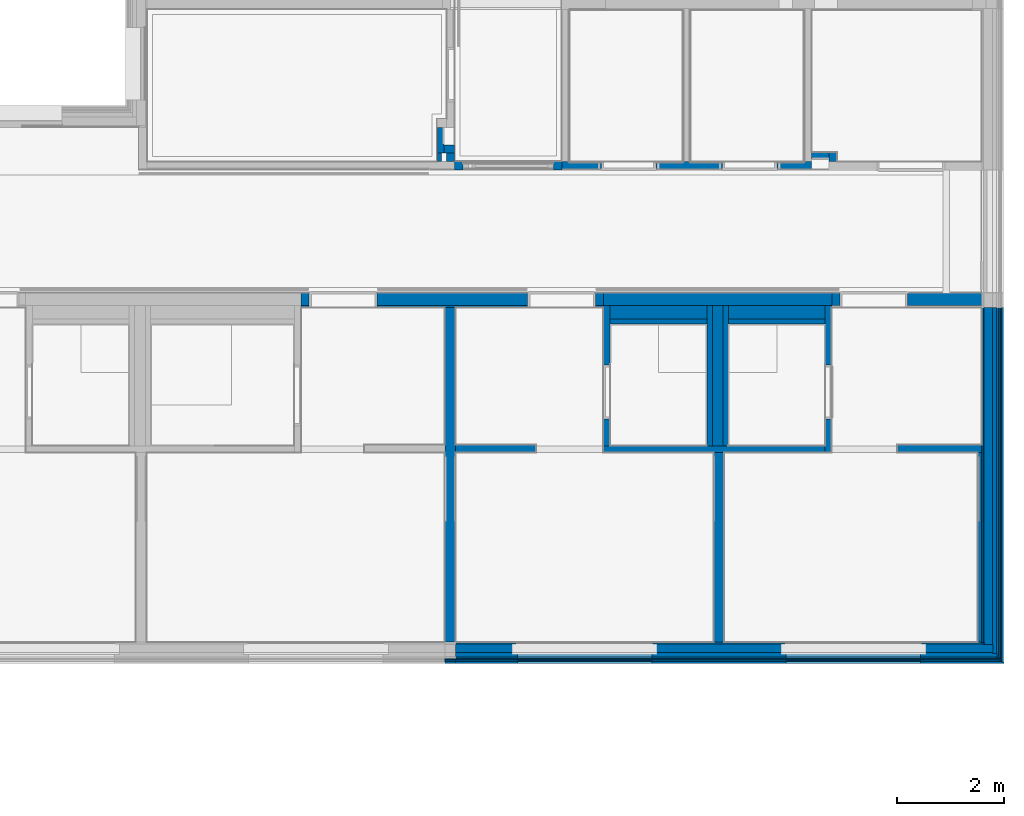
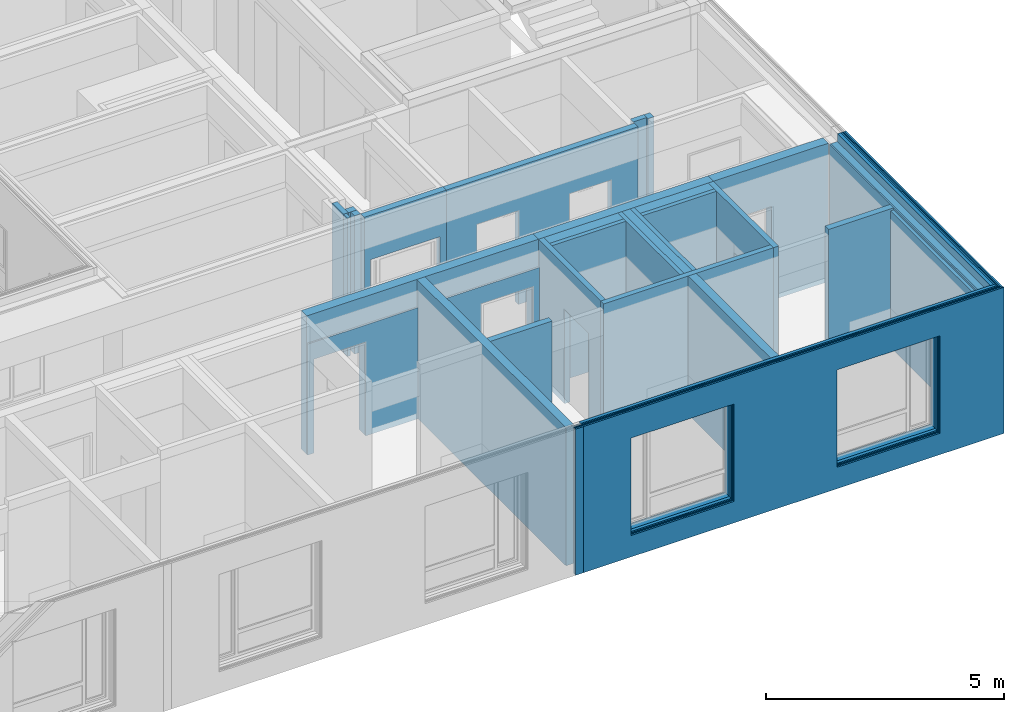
# One storey, part 50 of 222: 44 walls, 24 openings.
"""IFC4 building model written with IfcOpenShell, lengths in metres."""

from ifc_helpers import new_model, entity, si_unit, converted_unit, derived_unit, frame, frame_2d, origin, origin_with_axes, place, context, subcontext, project, spatial, polyline, rectangle, outline, extrude, clip, bounded_halfspace, material, element, save


model = new_model("IFC4")

# Units and contexts
model_context = context("Model", 3, precision=1e-05, world=origin())
body_context = subcontext(model_context, "Body", "Model", "MODEL_VIEW")
ifc_project = project(units=[si_unit("LENGTHUNIT", "METRE"), si_unit("AREAUNIT", "SQUARE_METRE"), si_unit("VOLUMEUNIT", "CUBIC_METRE"), si_unit("MASSUNIT", "GRAM", prefix="KILO"), converted_unit("PLANEANGLEUNIT", "DEGREE", entity("IfcPlaneAngleMeasure", 0.0174532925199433), si_unit("PLANEANGLEUNIT", "RADIAN"), dimensions=[0, 0, 0, 0, 0, 0, 0]), derived_unit("THERMALTRANSMITTANCEUNIT", [(si_unit("POWERUNIT", "WATT"), 1), (si_unit("THERMODYNAMICTEMPERATUREUNIT", "KELVIN"), -1), (si_unit("LENGTHUNIT", "METRE"), -2)]), derived_unit("VOLUMETRICFLOWRATEUNIT", [(si_unit("LENGTHUNIT", "METRE"), 3), (converted_unit("TIMEUNIT", "hour", entity("IfcTimeMeasure", 3600.0), si_unit("TIMEUNIT", "SECOND"), dimensions=[0, 0, 1, 0, 0, 0, 0]), -1), (si_unit("LENGTHUNIT", "METRE"), -1)])], contexts=[model_context])

# Site, building, storey
site_placement = place(None, origin())
site = spatial("IfcSite", under=ifc_project, at=site_placement, Name="Psychiatrie Neubau Wunstorf", CompositionType="ELEMENT")
building_placement = place(site_placement, origin())
building = spatial("IfcBuilding", under=site, at=building_placement, Name="Neubau H2 Stationsgebäude", CompositionType="ELEMENT")
storey_placement = place(building_placement, frame((0.0, 0.0, 3.6)))
storey = spatial("IfcBuildingStorey", under=building, at=storey_placement, Name="H2 Ebene +1", CompositionType="ELEMENT", Elevation=3.6)

# Wall, openings
ifc_material_1 = material(Name="WA-LB")
wall_1_placement = place(storey_placement, frame((105.889, -1.16399999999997, 0.0), z_axis=(0.0, 0.0, 1.0), x_axis=(-1.0, 0.0, 0.0)))
wall_1 = element("IfcWall", 1, at=wall_1_placement, inside=storey, material=ifc_material_1, context=body_context, shape_type="SweptSolid", body=[
    extrude(outline(polyline([(-9.78900000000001, -0.036), (0.0, -0.036), (0.0, 0.0), (-9.83600000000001, 0.0), (-9.83600000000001, -0.0250000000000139), (-9.78900000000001, -0.0250000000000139), (-9.78900000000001, -0.036)])), frame((9.78900000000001, 0.036, 0.0), z_axis=(0.0, 0.0, 1.0), x_axis=(1.0, 0.0, 0.0)), (0.0, 0.0, 1.0), 3.55),
])
opening_1_placement = place(wall_1_placement, frame((1.13899995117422, 0.0, 0.55), z_axis=(0.0, 1.0, 0.0), x_axis=(0.0, 0.0, 1.0)))
element("IfcOpeningElement", 2, at=opening_1_placement, cuts=wall_1, Name="Fensteröffnung", ObjectType="Opening", context=body_context, shape_type="SweptSolid", body=[
    extrude(outline(polyline([(2.5, 2.5), (2.5, 0.0), (0.0, 0.0), (0.0, 2.5), (2.5, 2.5)])), origin_with_axes(), (0.0, 0.0, 1.0), 0.036),
])
opening_2_placement = place(wall_1_placement, frame((6.13899995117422, 0.0, 0.55), z_axis=(0.0, 1.0, 0.0), x_axis=(0.0, 0.0, 1.0)))
element("IfcOpeningElement", 3, at=opening_2_placement, cuts=wall_1, Name="Fensteröffnung", ObjectType="Opening", context=body_context, shape_type="SweptSolid", body=[
    extrude(outline(polyline([(2.5, 2.5), (2.5, 0.0), (0.0, 0.0), (0.0, 2.5), (2.5, 2.5)])), origin_with_axes(), (0.0, 0.0, 1.0), 0.036),
])

ifc_material_2 = material(Name="WA-HD")
wall_2_placement = place(storey_placement, frame((105.925, -1.19999999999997, 0.0), z_axis=(0.0, 0.0, 1.0), x_axis=(-1.0, 0.0, 0.0)))
wall_2 = element("IfcWall", 4, at=wall_2_placement, inside=storey, material=ifc_material_2, context=body_context, shape_type="Clipping", body=[
    clip(clip(extrude(outline(polyline([(-9.82500000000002, -0.16), (0.0, -0.16), (0.0, 0.0), (-9.99600000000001, 0.0), (-9.99600000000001, -0.149000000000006), (-9.82500000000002, -0.149000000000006), (-9.82500000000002, -0.16)])), frame((9.82500000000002, 0.16, 0.0), z_axis=(0.0, 0.0, 1.0), x_axis=(1.0, 0.0, 0.0)), (0.0, 0.0, 1.0), 3.55), bounded_halfspace(frame((7.42499996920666, 0.0799999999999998, 0.26), z_axis=(0.0, 0.0, 1.0), x_axis=(1.0, 0.0, 0.0)), True, origin_with_axes(), polyline([(6.07499995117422, 0.0), (8.77499998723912, 0.0), (8.77499998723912, 0.16), (6.07499995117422, 0.16), (6.07499995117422, 0.0)]))), bounded_halfspace(frame((2.42499996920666, 0.0799999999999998, 0.26), z_axis=(0.0, 0.0, 1.0), x_axis=(1.0, 0.0, 0.0)), True, origin_with_axes(), polyline([(1.07499995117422, 0.0), (3.77499998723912, 0.0), (3.77499998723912, 0.16), (1.07499995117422, 0.16), (1.07499995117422, 0.0)]))),
])
opening_3_placement = place(wall_2_placement, frame((6.17499995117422, 0.0, 0.55), z_axis=(0.0, 1.0, 0.0), x_axis=(0.0, 0.0, 1.0)))
element("IfcOpeningElement", 5, at=opening_3_placement, cuts=wall_2, Name="Fensteröffnung", ObjectType="Opening", context=body_context, shape_type="SweptSolid", body=[
    extrude(outline(polyline([(2.5, 2.5), (2.5, 0.0), (0.0, 0.0), (0.0, 2.5), (2.5, 2.5)])), origin_with_axes(), (0.0, 0.0, 1.0), 0.16),
])
opening_4_placement = place(wall_2_placement, frame((1.17499995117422, 0.0, 0.55), z_axis=(0.0, 1.0, 0.0), x_axis=(0.0, 0.0, 1.0)))
element("IfcOpeningElement", 6, at=opening_4_placement, cuts=wall_2, Name="Fensteröffnung", ObjectType="Opening", context=body_context, shape_type="SweptSolid", body=[
    extrude(outline(polyline([(2.5, 2.5), (2.5, 0.0), (0.0, 0.0), (0.0, 2.5), (2.5, 2.5)])), origin_with_axes(), (0.0, 0.0, 1.0), 0.16),
])

ifc_material_3 = material(Name="WA-DL")
wall_3_placement = place(storey_placement, frame((106.085, -1.35999999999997, 0.0), z_axis=(0.0, 0.0, 1.0), x_axis=(-1.0, 0.0, 0.0)))
wall_3 = element("IfcWall", 7, at=wall_3_placement, inside=storey, material=ifc_material_3, context=body_context, shape_type="SweptSolid", body=[
    extrude(outline(polyline([(-9.98500000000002, -0.08), (0.0, -0.08), (0.0, 0.0), (-10.076, 0.0), (-10.076, -0.0690000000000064), (-9.98500000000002, -0.0690000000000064), (-9.98500000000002, -0.08)])), frame((9.98500000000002, 0.08, 0.0), z_axis=(0.0, 0.0, 1.0), x_axis=(1.0, 0.0, 0.0)), (0.0, 0.0, 1.0), 3.75),
])
opening_5_placement = place(wall_3_placement, frame((6.33499995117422, 0.0, 0.55), z_axis=(0.0, 1.0, 0.0), x_axis=(0.0, 0.0, 1.0)))
element("IfcOpeningElement", 8, at=opening_5_placement, cuts=wall_3, Name="Fensteröffnung", ObjectType="Opening", context=body_context, shape_type="SweptSolid", body=[
    extrude(outline(polyline([(2.5, 2.5), (2.5, 0.0), (0.0, 0.0), (0.0, 2.5), (2.5, 2.5)])), origin_with_axes(), (0.0, 0.0, 1.0), 0.08),
])
opening_6_placement = place(wall_3_placement, frame((1.33499995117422, 0.0, 0.55), z_axis=(0.0, 1.0, 0.0), x_axis=(0.0, 0.0, 1.0)))
element("IfcOpeningElement", 9, at=opening_6_placement, cuts=wall_3, Name="Fensteröffnung", ObjectType="Opening", context=body_context, shape_type="SweptSolid", body=[
    extrude(outline(polyline([(2.5, 2.5), (2.5, 0.0), (0.0, 0.0), (0.0, 2.5), (2.5, 2.5)])), origin_with_axes(), (0.0, 0.0, 1.0), 0.08),
])

ifc_material_4 = material(Name="WA-LB")
wall_4_placement = place(storey_placement, frame((106.165, -1.43999999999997, 0.0), z_axis=(0.0, 0.0, 1.0), x_axis=(-1.0, 0.0, 0.0)))
wall_4 = element("IfcWall", 10, at=wall_4_placement, inside=storey, material=ifc_material_4, context=body_context, shape_type="SweptSolid", body=[
    extrude(outline(polyline([(-10.065, -0.036), (0.0, -0.036), (0.0, 0.0), (-10.112, 0.0), (-10.112, -0.0250000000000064), (-10.065, -0.0250000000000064), (-10.065, -0.036)])), frame((10.065, 0.036, 0.0), z_axis=(0.0, 0.0, 1.0), x_axis=(1.0, 0.0, 0.0)), (0.0, 0.0, 1.0), 3.75),
])
opening_7_placement = place(wall_4_placement, frame((1.41499995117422, 0.0, 0.55), z_axis=(0.0, 1.0, 0.0), x_axis=(0.0, 0.0, 1.0)))
element("IfcOpeningElement", 11, at=opening_7_placement, cuts=wall_4, Name="Fensteröffnung", ObjectType="Opening", context=body_context, shape_type="SweptSolid", body=[
    extrude(outline(polyline([(2.5, 2.5), (2.5, 0.0), (0.0, 0.0), (0.0, 2.5), (2.5, 2.5)])), origin_with_axes(), (0.0, 0.0, 1.0), 0.036),
])
opening_8_placement = place(wall_4_placement, frame((6.41499995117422, 0.0, 0.55), z_axis=(0.0, 1.0, 0.0), x_axis=(0.0, 0.0, 1.0)))
element("IfcOpeningElement", 12, at=opening_8_placement, cuts=wall_4, Name="Fensteröffnung", ObjectType="Opening", context=body_context, shape_type="SweptSolid", body=[
    extrude(outline(polyline([(2.5, 2.5), (2.5, 0.0), (0.0, 0.0), (0.0, 2.5), (2.5, 2.5)])), origin_with_axes(), (0.0, 0.0, 1.0), 0.036),
])

ifc_material_5 = material(Name="WA-KL")
wall_5_placement = place(storey_placement, frame((106.201, -1.47599999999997, 0.0), z_axis=(0.0, 0.0, 1.0), x_axis=(-1.0, 0.0, 0.0)))
wall_5 = element("IfcWall", 13, at=wall_5_placement, inside=storey, material=ifc_material_5, context=body_context, shape_type="SweptSolid", body=[
    extrude(outline(polyline([(-10.101, -0.024), (0.0, -0.024), (0.0, 0.0), (-10.136, 0.0), (-10.136, -0.0130000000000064), (-10.101, -0.0130000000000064), (-10.101, -0.024)])), frame((10.101, 0.024, 0.0), z_axis=(0.0, 0.0, 1.0), x_axis=(1.0, 0.0, 0.0)), (0.0, 0.0, 1.0), 3.75),
])
opening_9_placement = place(wall_5_placement, frame((1.45099995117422, 0.0, 0.55), z_axis=(0.0, 1.0, 0.0), x_axis=(0.0, 0.0, 1.0)))
element("IfcOpeningElement", 14, at=opening_9_placement, cuts=wall_5, Name="Fensteröffnung", ObjectType="Opening", context=body_context, shape_type="SweptSolid", body=[
    extrude(outline(polyline([(2.5, 2.5), (2.5, 0.0), (0.0, 0.0), (0.0, 2.5), (2.5, 2.5)])), origin_with_axes(), (0.0, 0.0, 1.0), 0.024),
])
opening_10_placement = place(wall_5_placement, frame((6.45099995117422, 0.0, 0.55), z_axis=(0.0, 1.0, 0.0), x_axis=(0.0, 0.0, 1.0)))
element("IfcOpeningElement", 15, at=opening_10_placement, cuts=wall_5, Name="Fensteröffnung", ObjectType="Opening", context=body_context, shape_type="SweptSolid", body=[
    extrude(outline(polyline([(2.5, 2.5), (2.5, 0.0), (0.0, 0.0), (0.0, 2.5), (2.5, 2.5)])), origin_with_axes(), (0.0, 0.0, 1.0), 0.024),
])

ifc_material_6 = material(Name="WA-TL")
wall_6_placement = place(storey_placement, frame((106.225, -1.49999999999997, 0.0), z_axis=(0.0, 0.0, 1.0), x_axis=(-1.0, 0.0, 0.0)))
wall_6 = element("IfcWall", 16, at=wall_6_placement, inside=storey, material=ifc_material_6, context=body_context, shape_type="SweptSolid", body=[
    extrude(outline(polyline([(-10.125, -0.024), (0.0, -0.024), (0.0, 0.0), (-10.16, 0.0), (-10.16, -0.0130000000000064), (-10.125, -0.0130000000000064), (-10.125, -0.024)])), frame((10.125, 0.024, 0.0), z_axis=(0.0, 0.0, 1.0), x_axis=(1.0, 0.0, 0.0)), (0.0, 0.0, 1.0), 3.75),
])
opening_11_placement = place(wall_6_placement, frame((1.47499995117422, 0.0, 0.55), z_axis=(0.0, 1.0, 0.0), x_axis=(0.0, 0.0, 1.0)))
element("IfcOpeningElement", 17, at=opening_11_placement, cuts=wall_6, Name="Fensteröffnung", ObjectType="Opening", context=body_context, shape_type="SweptSolid", body=[
    extrude(outline(polyline([(2.5, 2.5), (2.5, 0.0), (0.0, 0.0), (0.0, 2.5), (2.5, 2.5)])), origin_with_axes(), (0.0, 0.0, 1.0), 0.024),
])
opening_12_placement = place(wall_6_placement, frame((6.47499995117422, 0.0, 0.55), z_axis=(0.0, 1.0, 0.0), x_axis=(0.0, 0.0, 1.0)))
element("IfcOpeningElement", 18, at=opening_12_placement, cuts=wall_6, Name="Fensteröffnung", ObjectType="Opening", context=body_context, shape_type="SweptSolid", body=[
    extrude(outline(polyline([(2.5, 2.5), (2.5, 0.0), (0.0, 0.0), (0.0, 2.5), (2.5, 2.5)])), origin_with_axes(), (0.0, 0.0, 1.0), 0.024),
])

ifc_material_7 = material(Name="WA-HS")
wall_7_placement = place(storey_placement, frame((106.249, -1.52399999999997, 0.0), z_axis=(0.0, 0.0, 1.0), x_axis=(-1.0, 0.0, 0.0)))
wall_7 = element("IfcWall", 19, at=wall_7_placement, inside=storey, material=ifc_material_7, context=body_context, shape_type="SweptSolid", body=[
    extrude(outline(polyline([(-10.149, -0.042), (0.0, -0.042), (0.0, 0.0), (-10.202, 0.0), (-10.202, -0.0310000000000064), (-10.149, -0.0310000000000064), (-10.149, -0.042)])), frame((10.149, 0.042, 0.0), z_axis=(0.0, 0.0, 1.0), x_axis=(1.0, 0.0, 0.0)), (0.0, 0.0, 1.0), 3.75),
])
opening_13_placement = place(wall_7_placement, frame((6.49899995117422, 0.0, 0.55), z_axis=(0.0, 1.0, 0.0), x_axis=(0.0, 0.0, 1.0)))
element("IfcOpeningElement", 20, at=opening_13_placement, cuts=wall_7, Name="Fensteröffnung", ObjectType="Opening", context=body_context, shape_type="SweptSolid", body=[
    extrude(outline(polyline([(2.5, 2.5), (2.5, 0.0), (0.0, 0.0), (0.0, 2.5), (2.5, 2.5)])), origin_with_axes(), (0.0, 0.0, 1.0), 0.042),
])
opening_14_placement = place(wall_7_placement, frame((1.49899995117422, 0.0, 0.55), z_axis=(0.0, 1.0, 0.0), x_axis=(0.0, 0.0, 1.0)))
element("IfcOpeningElement", 21, at=opening_14_placement, cuts=wall_7, Name="Fensteröffnung", ObjectType="Opening", context=body_context, shape_type="SweptSolid", body=[
    extrude(outline(polyline([(2.5, 2.5), (2.5, 0.0), (0.0, 0.0), (0.0, 2.5), (2.5, 2.5)])), origin_with_axes(), (0.0, 0.0, 1.0), 0.042),
])

# Walls
ifc_material_8 = material(Name="WA-KL")
wall_8_placement = place(storey_placement, frame((96.1, -1.47599999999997, 0.0), z_axis=(0.0, 0.0, 1.0), x_axis=(-1.0, 0.0, 0.0)))
element("IfcWall", 22, at=wall_8_placement, inside=storey, material=ifc_material_8, Name="Konterlattung", context=body_context, shape_type="SweptSolid", body=[
    extrude(rectangle(XDim=0.2, YDim=0.024, at=frame_2d((0.1, 0.012), x_axis=(1.0, 0.0))), origin_with_axes(), (0.0, 0.0, 1.0), 3.75),
])
ifc_material_9 = material(Name="WA-TL")
wall_9_placement = place(storey_placement, frame((96.1, -1.49999999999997, 0.0), z_axis=(0.0, 0.0, 1.0), x_axis=(-1.0, 0.0, 0.0)))
element("IfcWall", 23, at=wall_9_placement, inside=storey, material=ifc_material_9, Name="Traglattung", context=body_context, shape_type="SweptSolid", body=[
    extrude(rectangle(XDim=0.2, YDim=0.024, at=frame_2d((0.1, 0.012), x_axis=(1.0, 0.0))), origin_with_axes(), (0.0, 0.0, 1.0), 3.75),
])
ifc_material_10 = material(Name="WA-HS")
wall_10_placement = place(storey_placement, frame((96.1, -1.52399999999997, 0.0), z_axis=(0.0, 0.0, 1.0), x_axis=(-1.0, 0.0, 0.0)))
element("IfcWall", 24, at=wall_10_placement, inside=storey, material=ifc_material_10, Name="Holzschindel", context=body_context, shape_type="SweptSolid", body=[
    extrude(rectangle(XDim=0.2, YDim=0.042, at=frame_2d((0.1, 0.021), x_axis=(1.0, 0.0))), origin_with_axes(), (0.0, 0.0, 1.0), 3.75),
])
ifc_material_11 = material(Name="WA-LB")
wall_11_placement = place(storey_placement, frame((105.889, 5.06050000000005, 0.0), z_axis=(0.0, 0.0, 1.0), x_axis=(0.0, -1.0, 0.0)))
element("IfcWall", 25, at=wall_11_placement, inside=storey, material=ifc_material_11, context=body_context, shape_type="SweptSolid", body=[
    extrude(rectangle(XDim=6.23550000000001, YDim=0.036, at=frame_2d((3.11775, 0.018), x_axis=(1.0, 0.0))), origin_with_axes(), (0.0, 0.0, 1.0), 3.55),
])
ifc_material_12 = material(Name="WA-HD")
wall_12_placement = place(storey_placement, frame((105.925, 5.06050000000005, 0.0), z_axis=(0.0, 0.0, 1.0), x_axis=(0.0, -1.0, 0.0)))
element("IfcWall", 26, at=wall_12_placement, inside=storey, material=ifc_material_12, context=body_context, shape_type="SweptSolid", body=[
    extrude(outline(polyline([(-6.27150000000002, 0.0), (-0.0360000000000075, 0.0), (-0.0360000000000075, 0.011), (-0.0109999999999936, 0.011), (-0.0109999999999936, 0.0), (0.0, 0.0), (0.0, 0.16), (-6.27150000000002, 0.16), (-6.27150000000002, 0.0)])), frame((6.27150000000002, 0.0, 0.0), z_axis=(0.0, 0.0, 1.0), x_axis=(1.0, 0.0, 0.0)), (0.0, 0.0, 1.0), 3.55),
])
ifc_material_13 = material(Name="WA-DL")
wall_13_placement = place(storey_placement, frame((106.085, 5.06050000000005, 0.0), z_axis=(0.0, 0.0, 1.0), x_axis=(0.0, -1.0, 0.0)))
element("IfcWall", 27, at=wall_13_placement, inside=storey, material=ifc_material_13, context=body_context, shape_type="Clipping", body=[
    clip(extrude(rectangle(XDim=6.43150000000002, YDim=0.08, at=frame_2d((3.21575000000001, 0.04), x_axis=(1.0, 0.0))), origin_with_axes(), (0.0, 0.0, 1.0), 3.75), bounded_halfspace(frame((6.34600000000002, 0.0055, 3.55), z_axis=(0.0, 0.0, 1.0), x_axis=(1.0, 0.0, 0.0)), True, origin_with_axes(), polyline([(6.27150000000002, 0.0), (6.42050000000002, 0.0), (6.42050000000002, 0.011), (6.27150000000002, 0.011), (6.27150000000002, 0.0)]))),
])
ifc_material_14 = material(Name="WA-LB")
wall_14_placement = place(storey_placement, frame((106.165, 5.06050000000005, 0.0), z_axis=(0.0, 0.0, 1.0), x_axis=(0.0, -1.0, 0.0)))
element("IfcWall", 28, at=wall_14_placement, inside=storey, material=ifc_material_14, context=body_context, shape_type="SweptSolid", body=[
    extrude(outline(polyline([(-6.51150000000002, 0.0), (-0.08, 0.0), (-0.08, 0.011), (-0.0109999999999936, 0.011), (-0.0109999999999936, 0.0), (0.0, 0.0), (0.0, 0.036), (-6.51150000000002, 0.036), (-6.51150000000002, 0.0)])), frame((6.51150000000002, 0.0, 0.0), z_axis=(0.0, 0.0, 1.0), x_axis=(1.0, 0.0, 0.0)), (0.0, 0.0, 1.0), 3.75),
])
ifc_material_15 = material(Name="WA-KL")
wall_15_placement = place(storey_placement, frame((106.201, 5.06050000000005, 0.0), z_axis=(0.0, 0.0, 1.0), x_axis=(0.0, -1.0, 0.0)))
element("IfcWall", 29, at=wall_15_placement, inside=storey, material=ifc_material_15, context=body_context, shape_type="SweptSolid", body=[
    extrude(outline(polyline([(-6.54750000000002, 0.0), (-0.036, 0.0), (-0.036, 0.011), (-0.0109999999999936, 0.011), (-0.0109999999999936, 0.0), (0.0, 0.0), (0.0, 0.024), (-6.54750000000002, 0.024), (-6.54750000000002, 0.0)])), frame((6.54750000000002, 0.0, 0.0), z_axis=(0.0, 0.0, 1.0), x_axis=(1.0, 0.0, 0.0)), (0.0, 0.0, 1.0), 3.75),
])
ifc_material_16 = material(Name="WA-TL")
wall_16_placement = place(storey_placement, frame((106.225, 5.06050000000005, 0.0), z_axis=(0.0, 0.0, 1.0), x_axis=(0.0, -1.0, 0.0)))
element("IfcWall", 30, at=wall_16_placement, inside=storey, material=ifc_material_16, context=body_context, shape_type="SweptSolid", body=[
    extrude(outline(polyline([(-6.57150000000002, 0.0), (-0.024, 0.0), (-0.024, 0.011), (-0.0109999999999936, 0.011), (-0.0109999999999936, 0.0), (0.0, 0.0), (0.0, 0.024), (-6.57150000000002, 0.024), (-6.57150000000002, 0.0)])), frame((6.57150000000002, 0.0, 0.0), z_axis=(0.0, 0.0, 1.0), x_axis=(1.0, 0.0, 0.0)), (0.0, 0.0, 1.0), 3.75),
])
ifc_material_17 = material(Name="WA-HS")
wall_17_placement = place(storey_placement, frame((106.249, 5.06050000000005, 0.0), z_axis=(0.0, 0.0, 1.0), x_axis=(0.0, -1.0, 0.0)))
element("IfcWall", 31, at=wall_17_placement, inside=storey, material=ifc_material_17, context=body_context, shape_type="SweptSolid", body=[
    extrude(outline(polyline([(-6.59550000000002, 0.0), (-0.024, 0.0), (-0.024, 0.011), (-0.0109999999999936, 0.011), (-0.0109999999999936, 0.0), (0.0, 0.0), (0.0, 0.042), (-6.59550000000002, 0.042), (-6.59550000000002, 0.0)])), frame((6.59550000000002, 0.0, 0.0), z_axis=(0.0, 0.0, 1.0), x_axis=(1.0, 0.0, 0.0)), (0.0, 0.0, 1.0), 3.75),
])

# Wall, openings
ifc_material_18 = material(Name="WI-LB")
wall_18_placement = place(storey_placement, frame((98.075, 7.6249998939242, 0.0), z_axis=(0.0, 0.0, 1.0), x_axis=(1.0, -1.95590258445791e-16, 0.0)))
wall_18 = element("IfcWall", 32, at=wall_18_placement, inside=storey, material=ifc_material_18, context=body_context, shape_type="SweptSolid", body=[
    extrude(rectangle(XDim=4.65, YDim=0.15, at=frame_2d((2.325, 0.075), x_axis=(1.0, 0.0))), origin_with_axes(), (0.0, 0.0, 1.0), 3.55),
])
opening_15_placement = place(wall_18_placement, frame((1.75, 0.15, 0.0), z_axis=(0.0, -1.0, 0.0), x_axis=(0.0, 0.0, 1.0)))
element("IfcOpeningElement", 33, at=opening_15_placement, cuts=wall_18, Name="Türöffnung", ObjectType="Opening", context=body_context, shape_type="SweptSolid", body=[
    extrude(outline(polyline([(2.41, 1.01), (2.41, 0.0), (0.0, 0.0), (0.0, 1.01), (2.41, 1.01)])), origin_with_axes(), (0.0, 0.0, 1.0), 0.15),
])
opening_16_placement = place(wall_18_placement, frame((4.0, 0.150000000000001, 0.0), z_axis=(0.0, -1.0, 0.0), x_axis=(0.0, 0.0, 1.0)))
element("IfcOpeningElement", 34, at=opening_16_placement, cuts=wall_18, Name="Türöffnung", ObjectType="Opening", context=body_context, shape_type="SweptSolid", body=[
    extrude(outline(polyline([(2.41, 1.01), (2.41, 0.0), (0.0, 0.0), (0.0, 1.01), (2.41, 1.01)])), origin_with_axes(), (0.0, 0.0, 1.0), 0.15),
])

# Wall
ifc_material_19 = material(Name="WI-LB")
wall_19_placement = place(storey_placement, frame((102.975, 2.48550000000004, 0.0), z_axis=(0.0, 0.0, 1.0), x_axis=(-1.0, -2.42531920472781e-15, 0.0)))
element("IfcWall", 35, at=wall_19_placement, inside=storey, material=ifc_material_19, context=body_context, shape_type="SweptSolid", body=[
    extrude(rectangle(XDim=4.125, YDim=0.125, at=frame_2d((2.0625, 0.0625), x_axis=(1.0, 0.0))), origin_with_axes(), (0.0, 0.0, 1.0), 3.55),
])

# Wall, opening
ifc_material_20 = material(Name="WI-LB")
wall_20_placement = place(storey_placement, frame((98.85, 5.1005, 0.0), z_axis=(0.0, 0.0, 1.0), x_axis=(0.0, -1.0, 0.0)))
wall_20 = element("IfcWall", 36, at=wall_20_placement, inside=storey, material=ifc_material_20, context=body_context, shape_type="SweptSolid", body=[
    extrude(rectangle(XDim=2.61499999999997, YDim=0.125, at=frame_2d((1.30749999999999, 0.0625), x_axis=(1.0, 0.0))), origin_with_axes(), (0.0, 0.0, 1.0), 3.55),
])
opening_17_placement = place(wall_20_placement, frame((2.11499999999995, 0.125, 0.0), z_axis=(0.0, -1.0, 0.0), x_axis=(0.0, 0.0, 1.0)))
element("IfcOpeningElement", 37, at=opening_17_placement, cuts=wall_20, Name="Türöffnung", ObjectType="Opening", context=body_context, shape_type="SweptSolid", body=[
    extrude(outline(polyline([(2.41, 1.01), (2.41, 0.0), (0.0, 0.0), (0.0, 1.01), (2.41, 1.01)])), origin_with_axes(), (0.0, 0.0, 1.0), 0.125),
])

ifc_material_21 = material(Name="WI-LB")
wall_21_placement = place(storey_placement, frame((102.975, 5.1005, 0.0), z_axis=(0.0, 0.0, 1.0), x_axis=(0.0, -1.0, 0.0)))
wall_21 = element("IfcWall", 38, at=wall_21_placement, inside=storey, material=ifc_material_21, context=body_context, shape_type="SweptSolid", body=[
    extrude(rectangle(XDim=2.73999999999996, YDim=0.125, at=frame_2d((1.36999999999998, 0.0625), x_axis=(1.0, 0.0))), origin_with_axes(), (0.0, 0.0, 1.0), 3.55),
])
opening_18_placement = place(wall_21_placement, frame((1.10499999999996, 0.0, 0.0), z_axis=(0.0, 1.0, 0.0), x_axis=(0.0, 0.0, 1.0)))
element("IfcOpeningElement", 39, at=opening_18_placement, cuts=wall_21, Name="Türöffnung", ObjectType="Opening", context=body_context, shape_type="SweptSolid", body=[
    extrude(outline(polyline([(2.41, 1.01), (2.41, 0.0), (0.0, 0.0), (0.0, 1.01), (2.41, 1.01)])), origin_with_axes(), (0.0, 0.0, 1.0), 0.125),
])

# Walls
ifc_material_22 = material(Name="WI-LB")
wall_22_placement = place(storey_placement, frame((100.9, 2.36050000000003, 0.0), z_axis=(0.0, 0.0, 1.0), x_axis=(-4.12878854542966e-15, -1.0, 0.0)))
element("IfcWall", 40, at=wall_22_placement, inside=storey, material=ifc_material_22, context=body_context, shape_type="SweptSolid", body=[
    extrude(rectangle(XDim=3.52450000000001, YDim=0.2, at=frame_2d((1.76225, 0.1), x_axis=(1.0, 0.0))), origin_with_axes(), (0.0, 0.0, 1.0), 3.55),
])
ifc_material_23 = material(Name="WI-LB")
wall_23_placement = place(storey_placement, frame((97.6, 2.51050000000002, 0.0), z_axis=(0.0, 0.0, 1.0), x_axis=(-1.0, 0.0, 0.0)))
element("IfcWall", 41, at=wall_23_placement, inside=storey, material=ifc_material_23, context=body_context, shape_type="SweptSolid", body=[
    extrude(rectangle(XDim=1.5, YDim=0.15, at=frame_2d((0.75, 0.075), x_axis=(1.0, 0.0))), origin_with_axes(), (0.0, 0.0, 1.0), 3.55),
])
ifc_material_24 = material(Name="WI-LB")
wall_24_placement = place(storey_placement, frame((105.889, 2.51050000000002, 0.0), z_axis=(0.0, 0.0, 1.0), x_axis=(-1.0, 0.0, 0.0)))
element("IfcWall", 42, at=wall_24_placement, inside=storey, material=ifc_material_24, context=body_context, shape_type="SweptSolid", body=[
    extrude(rectangle(XDim=1.575, YDim=0.15, at=frame_2d((0.7875, 0.075), x_axis=(1.0, 0.0))), origin_with_axes(), (0.0, 0.0, 1.0), 3.55),
])
ifc_material_25 = material(Name="WI-LB")
wall_25_placement = place(storey_placement, frame((95.9, 5.10050000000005, 0.0), z_axis=(0.0, 0.0, 1.0), x_axis=(0.0, -1.0, 0.0)))
element("IfcWall", 43, at=wall_25_placement, inside=storey, material=ifc_material_25, context=body_context, shape_type="SweptSolid", body=[
    extrude(rectangle(XDim=6.26450000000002, YDim=0.2, at=frame_2d((3.13225000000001, 0.1), x_axis=(1.0, 0.0))), origin_with_axes(), (0.0, 0.0, 1.0), 3.55),
])
ifc_material_26 = material(Name="WI-LB")
wall_26_placement = place(storey_placement, frame((95.7575000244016, 8.41499989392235, 0.0), z_axis=(0.0, 0.0, 1.0), x_axis=(0.0, -1.0, 0.0)))
element("IfcWall", 44, at=wall_26_placement, inside=storey, material=ifc_material_26, context=body_context, shape_type="SweptSolid", body=[
    extrude(rectangle(XDim=0.475000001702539, YDim=0.125, at=frame_2d((0.237500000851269, 0.0625), x_axis=(1.0, 0.0))), origin_with_axes(), (0.0, 0.0, 1.0), 3.55),
])
ifc_material_27 = material(Name="WI-LB")
wall_27_placement = place(storey_placement, frame((103.05, 7.9499998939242, 0.0), z_axis=(0.0, 0.0, 1.0), x_axis=(0.0, -1.0, 0.0)))
element("IfcWall", 45, at=wall_27_placement, inside=storey, material=ifc_material_27, context=body_context, shape_type="SweptSolid", body=[
    extrude(rectangle(XDim=0.175, YDim=0.15, at=frame_2d((0.0875, 0.075), x_axis=(1.0, 0.0))), origin_with_axes(), (0.0, 0.0, 1.0), 3.55),
])
ifc_material_28 = material(Name="WI-LB")
wall_28_placement = place(storey_placement, frame((102.725, 7.8249998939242, 0.0)))
element("IfcWall", 46, at=wall_28_placement, inside=storey, material=ifc_material_28, context=body_context, shape_type="SweptSolid", body=[
    extrude(rectangle(XDim=0.325000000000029, YDim=0.125, at=frame_2d((0.162500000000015, 0.0625), x_axis=(1.0, 0.0))), origin_with_axes(), (0.0, 0.0, 1.0), 3.55),
])

# Wall, openings
ifc_material_29 = material(Name="WI-HW 60")
wall_29_placement = place(storey_placement, frame((98.85, 5.33250000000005, 0.0), z_axis=(0.0, 0.0, 1.0), x_axis=(-1.0, 0.0, 0.0)))
wall_29 = element("IfcWall", 47, at=wall_29_placement, inside=storey, material=ifc_material_29, context=body_context, shape_type="SweptSolid", body=[
    extrude(rectangle(XDim=5.62499995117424, YDim=0.232, at=frame_2d((2.81249997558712, 0.116), x_axis=(1.0, 0.0))), origin_with_axes(), (0.0, 0.0, 1.0), 3.55),
])
opening_19_placement = place(wall_29_placement, frame((0.15, 0.0, 0.0), z_axis=(0.0, 1.0, 0.0), x_axis=(0.0, 0.0, 1.0)))
element("IfcOpeningElement", 48, at=opening_19_placement, cuts=wall_29, Name="Türöffnung", ObjectType="Opening", context=body_context, shape_type="SweptSolid", body=[
    extrude(outline(polyline([(2.41, 1.26), (2.41, 0.0), (0.0, 0.0), (0.0, 1.26), (2.41, 1.26)])), origin_with_axes(), (0.0, 0.0, 1.0), 0.232),
])
opening_20_placement = place(wall_29_placement, frame((4.21499995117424, 0.0, 0.0), z_axis=(0.0, 1.0, 0.0), x_axis=(0.0, 0.0, 1.0)))
element("IfcOpeningElement", 49, at=opening_20_placement, cuts=wall_29, Name="Türöffnung", ObjectType="Opening", context=body_context, shape_type="SweptSolid", body=[
    extrude(outline(polyline([(2.41, 1.26), (2.41, 0.0), (0.0, 0.0), (0.0, 1.26), (2.41, 1.26)])), origin_with_axes(), (0.0, 0.0, 1.0), 0.232),
])

ifc_material_30 = material(Name="WI-LB")
wall_30_placement = place(storey_placement, frame((98.85, 5.10050000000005, 0.0), z_axis=(0.0, 0.0, 1.0), x_axis=(-1.0, 0.0, 0.0)))
wall_30 = element("IfcWall", 50, at=wall_30_placement, inside=storey, material=ifc_material_30, context=body_context, shape_type="SweptSolid", body=[
    extrude(rectangle(XDim=5.62499995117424, YDim=0.04, at=frame_2d((2.81249997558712, 0.02), x_axis=(1.0, 0.0))), origin_with_axes(), (0.0, 0.0, 1.0), 2.85),
])
opening_21_placement = place(wall_30_placement, frame((0.15, 0.0, 0.0), z_axis=(0.0, 1.0, 0.0), x_axis=(0.0, 0.0, 1.0)))
element("IfcOpeningElement", 51, at=opening_21_placement, cuts=wall_30, Name="Türöffnung", ObjectType="Opening", context=body_context, shape_type="SweptSolid", body=[
    extrude(outline(polyline([(2.41, 1.26), (2.41, 0.0), (0.0, 0.0), (0.0, 1.26), (2.41, 1.26)])), origin_with_axes(), (0.0, 0.0, 1.0), 0.04),
])
opening_22_placement = place(wall_30_placement, frame((4.21499995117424, 0.0, 0.0), z_axis=(0.0, 1.0, 0.0), x_axis=(0.0, 0.0, 1.0)))
element("IfcOpeningElement", 52, at=opening_22_placement, cuts=wall_30, Name="Türöffnung", ObjectType="Opening", context=body_context, shape_type="SweptSolid", body=[
    extrude(outline(polyline([(2.41, 1.26), (2.41, 0.0), (0.0, 0.0), (0.0, 1.26), (2.41, 1.26)])), origin_with_axes(), (0.0, 0.0, 1.0), 0.04),
])

# Wall, opening
ifc_material_31 = material(Name="WI-HW 60")
wall_31_placement = place(storey_placement, frame((105.889, 5.33250000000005, 0.0), z_axis=(0.0, 0.0, 1.0), x_axis=(-1.0, 0.0, 0.0)))
wall_31 = element("IfcWall", 53, at=wall_31_placement, inside=storey, material=ifc_material_31, context=body_context, shape_type="SweptSolid", body=[
    extrude(rectangle(XDim=2.789, YDim=0.232, at=frame_2d((1.3945, 0.116), x_axis=(1.0, 0.0))), origin_with_axes(), (0.0, 0.0, 1.0), 3.55),
])
opening_23_placement = place(wall_31_placement, frame((1.379, 0.0, 0.0), z_axis=(0.0, 1.0, 0.0), x_axis=(0.0, 0.0, 1.0)))
element("IfcOpeningElement", 54, at=opening_23_placement, cuts=wall_31, Name="Türöffnung", ObjectType="Opening", context=body_context, shape_type="SweptSolid", body=[
    extrude(outline(polyline([(2.41, 1.26), (2.41, 0.0), (0.0, 0.0), (0.0, 1.26), (2.41, 1.26)])), origin_with_axes(), (0.0, 0.0, 1.0), 0.232),
])

# Walls
ifc_material_32 = material(Name="WI-HW 60")
wall_32_placement = place(storey_placement, frame((103.1, 5.33250000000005, 0.0), z_axis=(0.0, 0.0, 1.0), x_axis=(-1.0, 0.0, 0.0)))
element("IfcWall", 55, at=wall_32_placement, inside=storey, material=ifc_material_32, context=body_context, shape_type="SweptSolid", body=[
    extrude(rectangle(XDim=4.25000000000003, YDim=0.232, at=frame_2d((2.12500000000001, 0.116), x_axis=(1.0, 0.0))), origin_with_axes(), (0.0, 0.0, 1.0), 3.55),
])
ifc_material_33 = material(Name="WI-LB")
wall_33_placement = place(storey_placement, frame((95.8825000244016, 7.93999989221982, 0.0)))
element("IfcWall", 56, at=wall_33_placement, inside=storey, material=ifc_material_33, context=body_context, shape_type="SweptSolid", body=[
    extrude(rectangle(XDim=0.200000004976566, YDim=0.15, at=frame_2d((0.100000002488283, 0.075), x_axis=(1.0, 0.0))), origin_with_axes(), (0.0, 0.0, 1.0), 3.55),
])
ifc_material_34 = material(Name="WI-LB")
wall_34_placement = place(storey_placement, frame((95.9325000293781, 7.93999989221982, 0.0), z_axis=(0.0, 0.0, 1.0), x_axis=(9.52462540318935e-09, -1.0, 0.0)))
element("IfcWall", 57, at=wall_34_placement, inside=storey, material=ifc_material_34, context=body_context, shape_type="SweptSolid", body=[
    extrude(rectangle(XDim=0.164999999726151, YDim=0.15, at=frame_2d((0.0824999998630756, 0.075), x_axis=(1.0, 0.0))), origin_with_axes(), (0.0, 0.0, 1.0), 3.55),
])
ifc_material_35 = material(Name="WI-LB")
wall_35_placement = place(storey_placement, frame((95.7575000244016, 7.93999989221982, 0.0), z_axis=(0.0, 0.0, 1.0), x_axis=(0.0, -1.0, 0.0)))
element("IfcWall", 58, at=wall_35_placement, inside=storey, material=ifc_material_35, context=body_context, shape_type="SweptSolid", body=[
    extrude(rectangle(XDim=0.16499999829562, YDim=0.075, at=frame_2d((0.0824999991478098, 0.0375), x_axis=(1.0, 0.0))), origin_with_axes(), (0.0, 0.0, 1.0), 3.55),
])
ifc_material_36 = material(Name="WI-IW")
wall_36_placement = place(storey_placement, frame((98.975, 4.7505, 0.0)))
element("IfcWall", 59, at=wall_36_placement, inside=storey, material=ifc_material_36, context=body_context, shape_type="SweptSolid", body=[
    extrude(rectangle(XDim=1.8, YDim=0.1, at=frame_2d((0.9, 0.05), x_axis=(1.0, 0.0))), origin_with_axes(), (0.0, 0.0, 1.0), 3.55),
])
ifc_material_37 = material(Name="Installationsraum")
wall_37_placement = place(storey_placement, frame((98.975, 4.8505, 0.0)))
element("IfcWall", 60, at=wall_37_placement, inside=storey, material=ifc_material_37, context=body_context, shape_type="SweptSolid", body=[
    extrude(rectangle(XDim=1.8, YDim=0.25, at=frame_2d((0.9, 0.125), x_axis=(1.0, 0.0))), origin_with_axes(), (0.0, 0.0, 1.0), 3.55),
])
ifc_material_38 = material(Name="WI-IW")
wall_38_placement = place(storey_placement, frame((100.775, 5.1005, 0.0), z_axis=(0.0, 0.0, 1.0), x_axis=(0.0, -1.0, 0.0)))
element("IfcWall", 61, at=wall_38_placement, inside=storey, material=ifc_material_38, context=body_context, shape_type="SweptSolid", body=[
    extrude(rectangle(XDim=2.615, YDim=0.1, at=frame_2d((1.3075, 0.05), x_axis=(1.0, 0.0))), origin_with_axes(), (0.0, 0.0, 1.0), 3.55),
])
ifc_material_39 = material(Name="Installationsraum")
wall_39_placement = place(storey_placement, frame((100.875, 5.1005, 0.0), z_axis=(0.0, 0.0, 1.0), x_axis=(0.0, -1.0, 0.0)))
element("IfcWall", 62, at=wall_39_placement, inside=storey, material=ifc_material_39, context=body_context, shape_type="SweptSolid", body=[
    extrude(rectangle(XDim=2.615, YDim=0.2, at=frame_2d((1.3075, 0.1), x_axis=(1.0, 0.0))), origin_with_axes(), (0.0, 0.0, 1.0), 3.55),
])
ifc_material_40 = material(Name="WI-IW")
wall_40_placement = place(storey_placement, frame((101.075, 5.1005, 0.0), z_axis=(0.0, 0.0, 1.0), x_axis=(0.0, -1.0, 0.0)))
element("IfcWall", 63, at=wall_40_placement, inside=storey, material=ifc_material_40, context=body_context, shape_type="SweptSolid", body=[
    extrude(rectangle(XDim=2.615, YDim=0.1, at=frame_2d((1.3075, 0.05), x_axis=(1.0, 0.0))), origin_with_axes(), (0.0, 0.0, 1.0), 3.55),
])
ifc_material_41 = material(Name="WI-IW")
wall_41_placement = place(storey_placement, frame((101.175, 4.7505, 0.0)))
element("IfcWall", 64, at=wall_41_placement, inside=storey, material=ifc_material_41, context=body_context, shape_type="SweptSolid", body=[
    extrude(rectangle(XDim=1.8, YDim=0.1, at=frame_2d((0.9, 0.05), x_axis=(1.0, 0.0))), origin_with_axes(), (0.0, 0.0, 1.0), 3.55),
])
ifc_material_42 = material(Name="Installationsraum")
wall_42_placement = place(storey_placement, frame((101.175, 4.8505, 0.0)))
element("IfcWall", 65, at=wall_42_placement, inside=storey, material=ifc_material_42, context=body_context, shape_type="SweptSolid", body=[
    extrude(rectangle(XDim=1.8, YDim=0.25, at=frame_2d((0.9, 0.125), x_axis=(1.0, 0.0))), origin_with_axes(), (0.0, 0.0, 1.0), 3.55),
])
ifc_material_43 = material(Name="WI-LB")
wall_43_placement = place(storey_placement, frame((105.814, 2.36050000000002, 0.0), z_axis=(0.0, 0.0, 1.0), x_axis=(0.0, -1.0, 0.0)))
element("IfcWall", 66, at=wall_43_placement, inside=storey, material=ifc_material_43, context=body_context, shape_type="SweptSolid", body=[
    extrude(rectangle(XDim=3.52449999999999, YDim=0.075, at=frame_2d((1.76225, 0.0375), x_axis=(1.0, 0.0))), origin_with_axes(), (0.0, 0.0, 1.0), 3.5),
])

# Wall, opening
ifc_material_44 = material(Name="WI-LB")
wall_44_placement = place(storey_placement, frame((98.075, 7.7799998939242, 0.0), z_axis=(0.0, 0.0, 1.0), x_axis=(-1.0, 0.0, 0.0)))
wall_44 = element("IfcWall", 67, at=wall_44_placement, inside=storey, material=ifc_material_44, context=body_context, shape_type="SweptSolid", body=[
    extrude(rectangle(XDim=1.99249996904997, YDim=0.155, at=frame_2d((0.996249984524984, 0.0775), x_axis=(1.0, 0.0))), origin_with_axes(), (0.0, 0.0, 1.0), 3.55),
])
opening_24_placement = place(wall_44_placement, frame((1.83749998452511, 0.155, 0.0), z_axis=(0.0, -1.0, 0.0), x_axis=(0.0, 0.0, 1.0)))
element("IfcOpeningElement", 68, at=opening_24_placement, cuts=wall_44, Name="Türöffnung", ObjectType="Opening", context=body_context, shape_type="SweptSolid", body=[
    extrude(outline(polyline([(2.41, 1.6825), (2.41, 0.0), (0.0, 0.0), (0.0, 1.6825), (2.41, 1.6825)])), origin_with_axes(), (0.0, 0.0, 1.0), 0.155),
])

save(model, "model.ifc")
